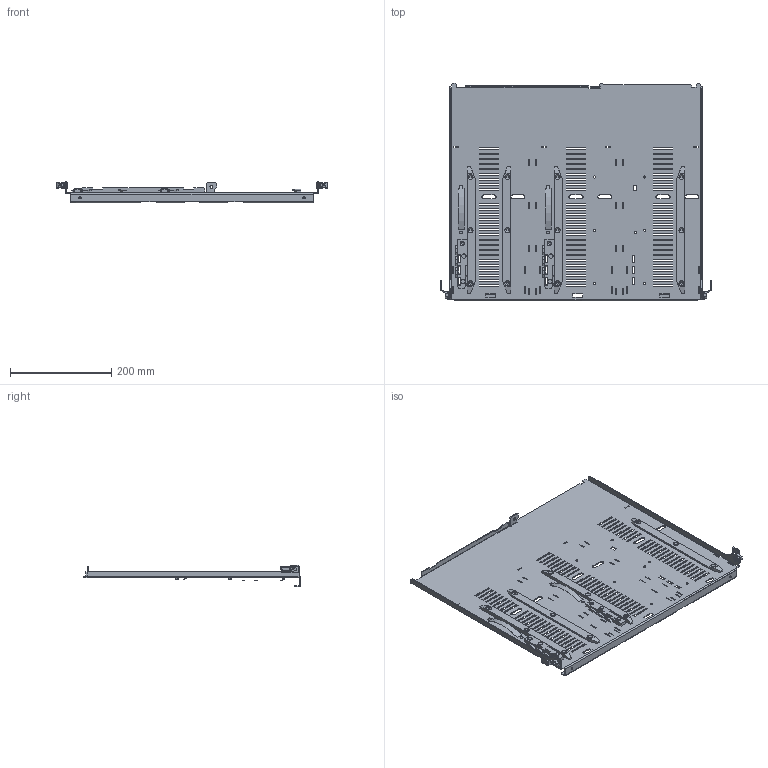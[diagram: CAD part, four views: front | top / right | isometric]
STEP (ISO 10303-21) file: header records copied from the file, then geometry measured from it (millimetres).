
FILE_DESCRIPTION(('CAx-IF Rec.Pracs.---Model Styling and Organization---1.2---2011-12-15','CAx-IF Rec.Pracs.---Geometric and Assembly Validation Properties---4.1---2014-06-16','CAx-IF Rec.Pracs.---PMI Polyline Presentation---2.0---2013-05-24'),'2;1');
FILE_NAME('R5M2WXM32R.stp','2021-05-05T12:44:43+03:00',(''),(''),'STEP Interface 4.4 by CT CoreTechnologie','3D_Evolution4.4 by CT CoreTechnologie','');
FILE_SCHEMA(('AUTOMOTIVE_DESIGN { 1 0 10303 214 1 1 1 1 }'));
Length unit declared in the file: millimetre
Products named in the file (10): R5M2WXM32R; RB.1167.00.00.0 ÑÁ_-04 (R5M2WM32R); RB.1167.00.03.0_-00; M5x12-DIN 7500M ISR_stright; Ì4-GOST R 50273-92 (DIN 985)_stright DIN EN ISO 10511 - M4 - N; RB.1505.00.02.0; RB.1167.00.02.0; RB.1167.00.01.0_-02; M6 x 16-DIN 7991 ISR_thread; AC00C485
Assembly tree (33 placements, depth 3):
  R5M2WXM32R
    RB.1167.00.00.0 ÑÁ_-04 (R5M2WM32R)
      RB.1167.00.03.0_-00  x3
      M5x12-DIN 7500M ISR_stright  x12
      Ì4-GOST R 50273-92 (DIN 985)_stright DIN EN ISO 10511 - M4 - N  x6
      RB.1505.00.02.0  x4
      RB.1167.00.02.0  x2
      RB.1167.00.01.0_-02
    M6 x 16-DIN 7991 ISR_thread  x2
    AC00C485  x2
Bounding box: 537 x 430 x 43 mm (x, y, z)
Surface area: 535176.3 mm2 (no closed solid volume)
Topology: 0 solids, 38 shells, 1251 faces, 3351 edges, 2184 vertices
Faces by surface type: plane 959, cylinder 228, bspline 64
Entity records: 31479 total; most frequent: CARTESIAN_POINT 5941, ORIENTED_EDGE 5220, DIRECTION 4736, EDGE_CURVE 2612, VECTOR 2318, LINE 2318, VERTEX_POINT 1716, EDGE_LOOP 1226
